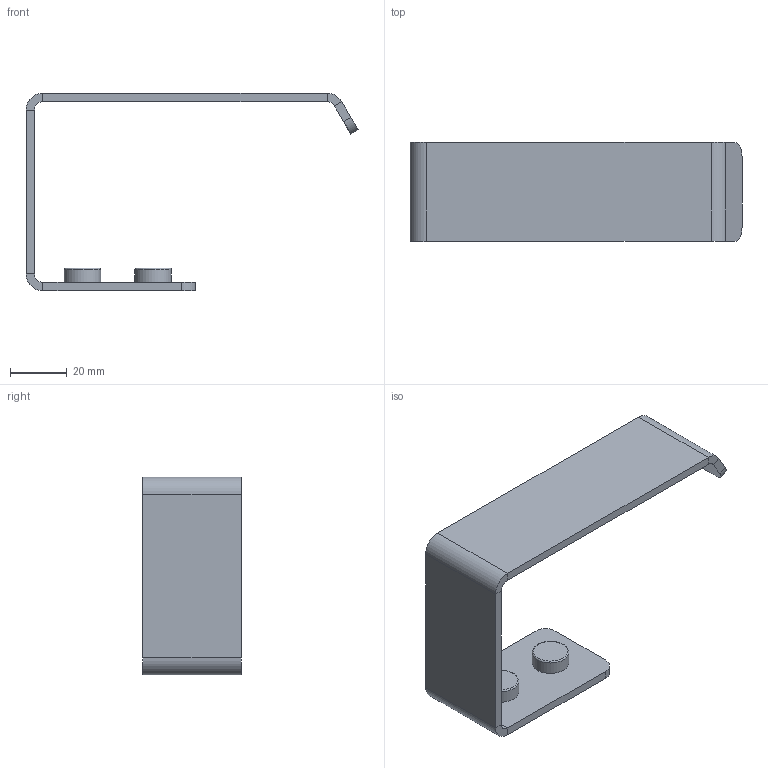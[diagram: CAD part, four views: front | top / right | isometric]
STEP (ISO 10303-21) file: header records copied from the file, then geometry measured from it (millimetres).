
FILE_DESCRIPTION(/* description */ (''),/* implementation_level */ '2;1');
FILE_NAME(/* name */ 'D:\DABSTORY\Folder dabstory pulpit - 16.03.2020\1. Oferta łazienkowa\Uchwyt na papier toaletowy HOOLIO\Uchwyt na papier toaletow HOOLIO\Uchwyt na papier toaletowy HOOLIO.stp',/* time_stamp */ '2021-05-24T11:14:02+02:00',/* author */ ('Verical'),/* organization */ (''),/* preprocessor_version */ 'ST-DEVELOPER v17',/* originating_system */ 'Autodesk Inventor 2018',/* authorisation */ '');
FILE_SCHEMA (('AUTOMOTIVE_DESIGN { 1 0 10303 214 3 1 1 }'));
Length unit declared in the file: millimetre
Products named in the file (1): Uchwyt na papier toaletowy HOOLIO
Bounding box: 117.5 x 35 x 70 mm (x, y, z)
Volume: 26534.5 mm3; surface area: 19126 mm2
Topology: 1 solids, 1 shells, 44 faces, 96 edges, 58 vertices
Faces by surface type: plane 28, cylinder 14, torus 2
Full cylindrical faces by diameter (mm): 7 x2, 13 x2
Entity records: 1235 total; most frequent: DIRECTION 226, CARTESIAN_POINT 199, ORIENTED_EDGE 192, EDGE_CURVE 96, AXIS2_PLACEMENT_3D 85, VERTEX_POINT 58, LINE 56, VECTOR 56
